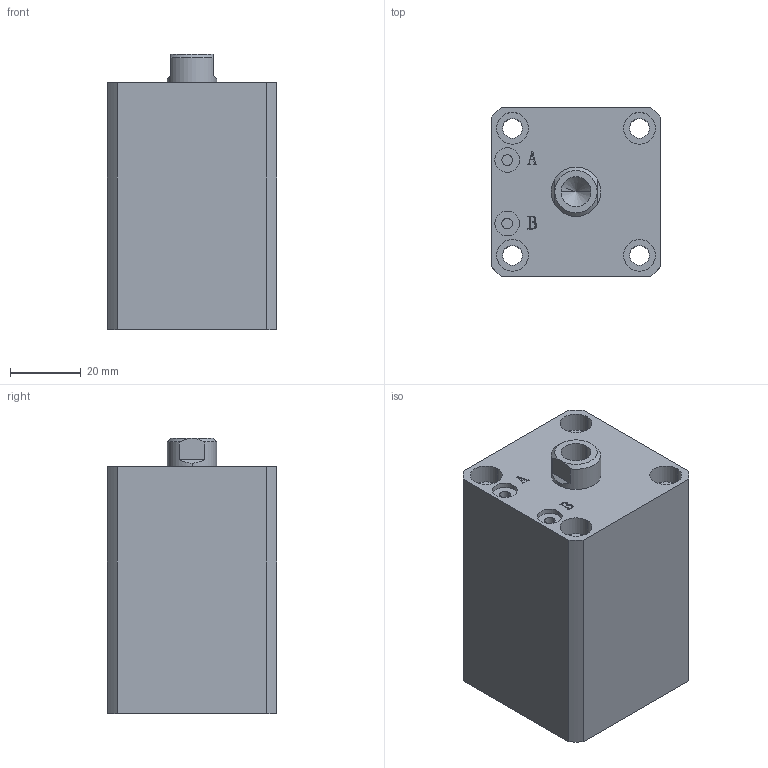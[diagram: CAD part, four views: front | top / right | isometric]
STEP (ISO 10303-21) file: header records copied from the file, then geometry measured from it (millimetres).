
FILE_DESCRIPTION (( 'STEP AP203' ), '1' );
FILE_NAME ('HTB-SDMA25-25N.STEP', '2019-10-07T10:51:56', ( '微软用户' ), ( '微软中国' ), 'SwSTEP 2.0', 'SolidWorks 2012', '' );
FILE_SCHEMA (( 'CONFIG_CONTROL_DESIGN' ));
Length unit declared in the file: millimetre
Products named in the file (3): HTB-SDMA25-25N; HTB-SDMA25-25N活塞杆; HTB-SDMA25-25掛极
Assembly tree (2 placements, depth 2):
  HTB-SDMA25-25N
    HTB-SDMA25-25掛极
    HTB-SDMA25-25N活塞杆
Bounding box: 48 x 48 x 78 mm (x, y, z)
Volume: 142987 mm3; surface area: 32851.3 mm2
Topology: 2 solids, 2 shells, 137 faces, 329 edges, 215 vertices
Faces by surface type: plane 65, cylinder 46, bspline 16, torus 6, cone 4
Entity records: 5072 total; most frequent: CARTESIAN_POINT 1592, ORIENTED_EDGE 654, DIRECTION 645, EDGE_CURVE 327, AXIS2_PLACEMENT_3D 232, VERTEX_POINT 215, VECTOR 181, LINE 181
